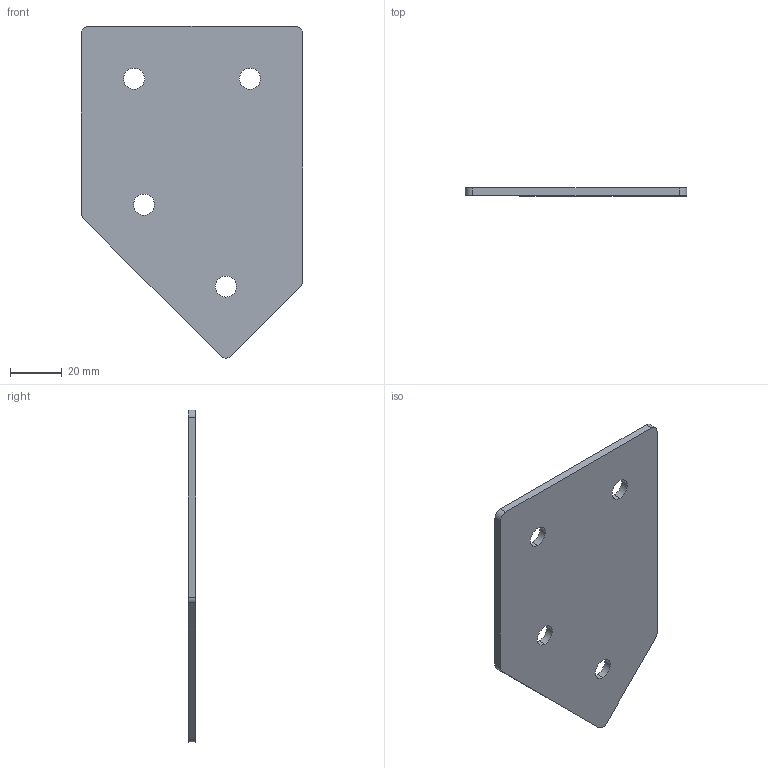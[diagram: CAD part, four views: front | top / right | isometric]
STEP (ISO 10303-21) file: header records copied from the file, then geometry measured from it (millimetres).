
FILE_DESCRIPTION (( 'STEP AP203' ), '1' );
FILE_NAME ('Ï-4-óãîë 45-45.STEP', '2016-07-23T17:03:37', ( '' ), ( '' ), 'SwSTEP 2.0', 'SolidWorks 2014', '' );
FILE_SCHEMA (( 'CONFIG_CONTROL_DESIGN' ));
Length unit declared in the file: millimetre
Products named in the file (1): Ï-4-óãîë 45-45
Bounding box: 86 x 3 x 128.92 mm (x, y, z)
Surface area: 19351.9 mm2 (no closed solid volume)
Topology: 0 solids, 1 shells, 20 faces, 54 edges, 36 vertices
Faces by surface type: cylinder 13, plane 7
Entity records: 737 total; most frequent: DIRECTION 122, CARTESIAN_POINT 111, ORIENTED_EDGE 108, EDGE_CURVE 54, AXIS2_PLACEMENT_3D 47, VERTEX_POINT 36, VECTOR 28, LINE 28
